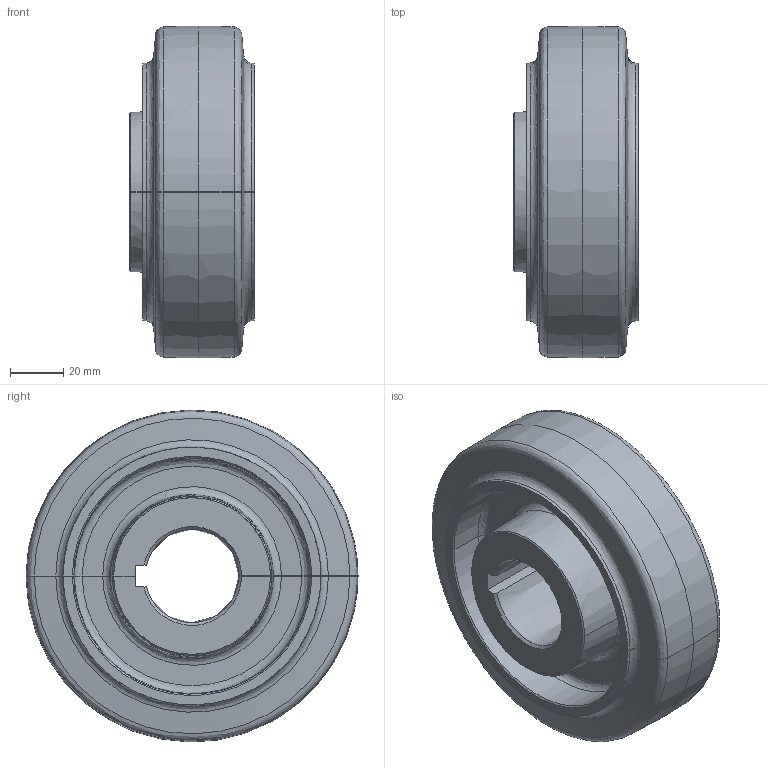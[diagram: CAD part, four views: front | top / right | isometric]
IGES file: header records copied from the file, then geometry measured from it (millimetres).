
Start section: JAMA-IS VERSION  1.0
Global section: file name: C:\CAM-TOOL data\ToolsFile\INOAC車輪\11月\DWR-125D-ALL.igs; native system: CAM-TOOL; preprocessor: C3out Version 11.1.1.50212 (2015/02/12); author: NONE; organization: NONE; date: 221123.174354; units: millimetre
Bounding box: 47 x 125 x 124.97 mm (x, y, z)
Surface area: 79401.4 mm2 (no closed solid volume)
Topology: 0 solids, 0 shells, 67 faces, 568 edges, 709 vertices
Faces by surface type: bspline 67
